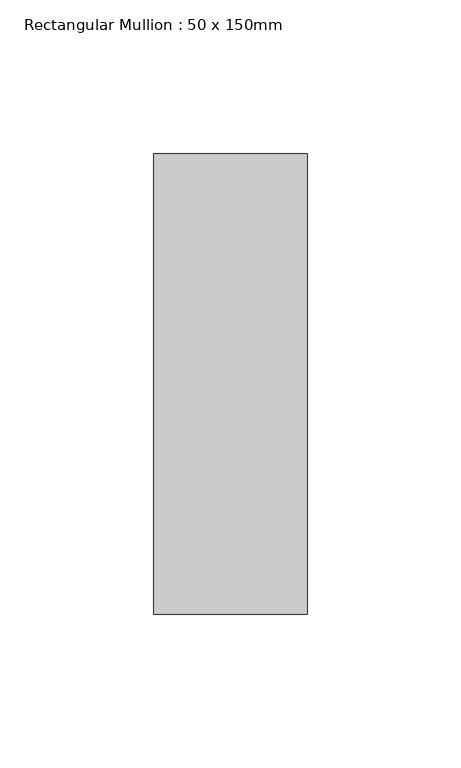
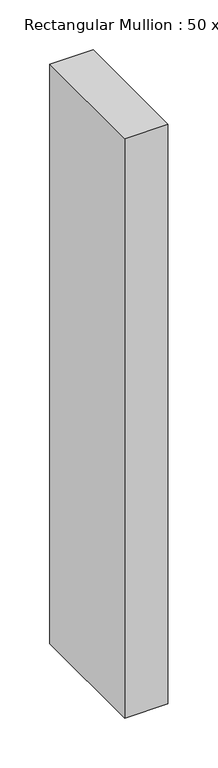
"""IFC4 building model written with IfcOpenShell, lengths in millimetres: member geometry, Rectangular Mullion : 50 x 150mm."""

from ifc_helpers import new_model, si_unit, frame, origin, place, context, project, spatial, polyline, outline, extrude, source, transform, mapped, element, save


def rectangular_mullion_50_x_150mm_bf176b26(model_context):
    return source(origin(), model_context, "Body", "SweptSolid", [
        extrude(outline(polyline([(25.0, 75.0), (25.0, -75.0), (-25.0, -75.0), (-25.0, 75.0), (25.0, 75.0)])), frame((0.0, 0.0, -709.1666669), z_axis=(0.0, 0.0, 1.0), x_axis=(1.0, 0.0, 0.0)), (0.0, 0.0, 1.0), 709.1666669),
    ])


if __name__ == "__main__":
    model = new_model("IFC4")
    model_context = context("Model", 3, world=origin())
    ifc_project = project(units=[si_unit("LENGTHUNIT", "METRE", prefix="MILLI")], contexts=[model_context])
    site = spatial("IfcSite", under=ifc_project)
    building = spatial("IfcBuilding", under=site)
    placement = place(None, origin())
    rectangular_mullion_50_x_150mm_shape = rectangular_mullion_50_x_150mm_bf176b26(model_context)
    element("IfcMember", 1, ObjectType="Rectangular Mullion : 50 x 150mm", at=placement, inside=building, context=model_context, shape_type="MappedRepresentation", body=[
        mapped(rectangular_mullion_50_x_150mm_shape, transform((0.0, 0.0, 0.0), x_axis=(1.0, 0.0, 0.0), y_axis=(0.0, 1.0, 0.0), z_axis=(0.0, 0.0, 1.0))),
    ])
    save(model, "model.ifc")
